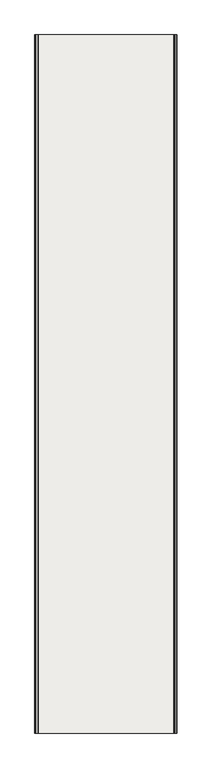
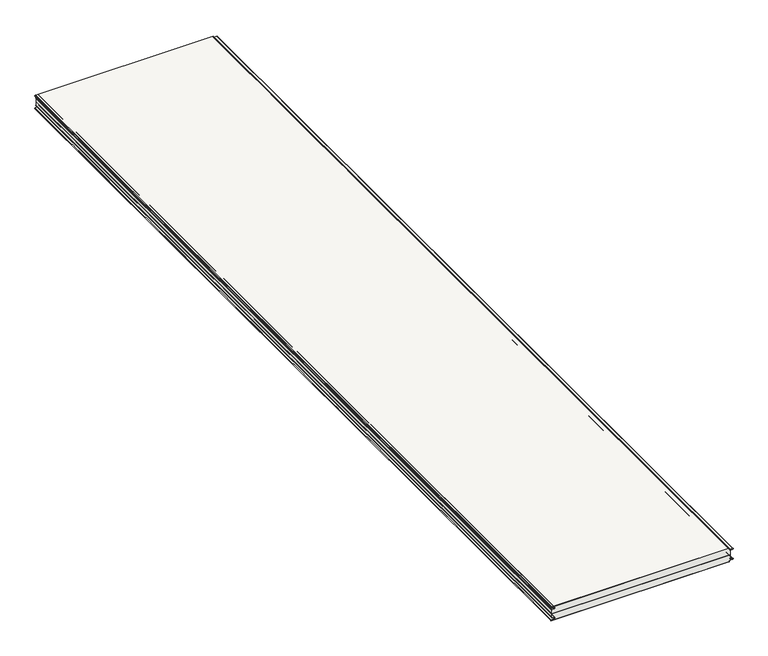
"""IFC4 building model written with IfcOpenShell, lengths in millimetres: covering geometry, Płyta warstwowa ścienna SPW-S CORE WOOL (pojedynczy arkusz) : -."""

from ifc_helpers import new_model, si_unit, point, frame, frame_2d, origin, place, context, project, spatial, polyline, circle_curve, trimmed, segment, composite_curve, outline, extrude, source, transform, mapped, element, save
from ifc_brep_helpers import plane_surface, cylinder_surface, revolved_surface, advanced_brep


def covering_82a8a973(model_context):
    return source(origin(), model_context, "Body", "SolidModel", [
        advanced_brep(
        [(-1033.5, -5000.0, -16.6075105), (-1033.5, 0.0, -16.6075105), (-1033.5, 0.0, -40.0), (-1033.5, -5000.0, -40.0), (-1032.0785013, -5000.0, -15.109566), (-1032.0785013, 0.0, -15.109566), (-1021.2683586, -5000.0, -14.5430494), (-1021.2683586, 0.0, -14.5430494), (-1021.346807, -5000.0, -5.5519576), (-1021.346807, 0.0, -5.5519576), (-1037.1871545, -5000.0, -4.9987728), (-1037.1871545, 0.0, -4.9987728), (-1037.1173522, -5000.0, -1.0), (-1037.1173522, 0.0, -1.0), (-1035.0, -5000.0, -1.0), (-36.5, -5000.0, -40.0), (-36.5, -5000.0, -16.0462304), (-33.6570079, -5000.0, -13.0503418), (-22.43132, -5000.0, -12.4620284), (-22.5993141, -5000.0, -7.6513085), (-39.1884611, -5000.0, -7.0687817), (-41.1186621, -5000.0, -5.07), (-41.1186621, -5000.0, -3.0), (-43.1186621, -5000.0, -1.0), (-1035.0, 0.0, -1.0), (-43.1186621, 0.0, -1.0), (-41.1186621, 0.0, -3.0), (-41.1186621, 0.0, -5.07), (-39.1884611, 0.0, -7.0687817), (-22.5992017, 0.0, -7.6480914), (-22.43132, 0.0, -12.4620284), (-33.6570079, 0.0, -13.0503418), (-36.5, 0.0, -16.0462304), (-36.5, 0.0, -40.0)],
        [
            (0, 1),
            (1, 2),
            (2, 3),
            (3, 0),
            (0, 4, circle_curve(frame((-1032.0, -5000.0, -16.6075105), z_axis=(0.0, 1.0, 0.0), x_axis=(-1.0, 0.0, 0.0)), 1.5)),
            (4, 5),
            (5, 1, circle_curve(frame((-1032.0, 0.0, -16.6075105), z_axis=(0.0, -1.0, 0.0), x_axis=(-1.0, 0.0, 0.0)), 1.5)),
            (4, 6),
            (6, 7),
            (7, 5),
            (6, 8, circle_curve(frame((-1021.5038626, -5000.0, -10.049216), z_axis=(0.0, -1.0, 0.0), x_axis=(-1.0, 0.0, 0.0)), 4.5)),
            (8, 9),
            (9, 7, circle_curve(frame((-1021.5038626, 0.0, -10.049216), z_axis=(0.0, 1.0, 0.0), x_axis=(-1.0, 0.0, 0.0)), 4.5)),
            (8, 10),
            (10, 11),
            (11, 9),
            (10, 12, circle_curve(frame((-1037.1173522, -5000.0, -2.9999956), z_axis=(0.0, 1.0, 0.0), x_axis=(-1.0, 0.0, 0.0)), 1.9999956)),
            (12, 13),
            (13, 11, circle_curve(frame((-1037.1173522, 0.0, -2.9999956), z_axis=(0.0, -1.0, 0.0), x_axis=(-1.0, 0.0, 0.0)), 1.9999956)),
            (14, 12),
            (3, 15),
            (15, 16),
            (16, 17, circle_curve(frame((-33.5, -5000.0, -16.0462304), z_axis=(0.0, 1.0, 0.0), x_axis=(-1.0, 0.0, 0.0)), 3.0)),
            (17, 18),
            (18, 19, circle_curve(frame((-22.6835162, -5000.0, -10.0625421), z_axis=(0.0, -1.0, 0.0), x_axis=(-1.0, 0.0, 0.0)), 2.4127033)),
            (19, 20),
            (20, 21, circle_curve(frame((-39.1186621, -5000.0, -5.07), z_axis=(0.0, 1.0, 0.0), x_axis=(-1.0, 0.0, 0.0)), 2.0)),
            (21, 22),
            (22, 23, circle_curve(frame((-43.1186621, -5000.0, -3.0), z_axis=(0.0, -1.0, 0.0), x_axis=(-1.0, 0.0, 0.0)), 2.0)),
            (23, 14),
            (13, 24),
            (24, 25),
            (25, 26, circle_curve(frame((-43.1186621, 0.0, -3.0), z_axis=(0.0, 1.0, 0.0), x_axis=(-1.0, 0.0, 0.0)), 2.0)),
            (26, 27),
            (27, 28, circle_curve(frame((-39.1186621, 0.0, -5.07), z_axis=(0.0, -1.0, 0.0), x_axis=(-1.0, 0.0, 0.0)), 2.0)),
            (28, 29),
            (29, 30, circle_curve(frame((-22.6835162, 0.0, -10.0625421), z_axis=(0.0, 1.0, 0.0), x_axis=(-1.0, 0.0, 0.0)), 2.4127033)),
            (30, 31),
            (31, 32, circle_curve(frame((-33.5, 0.0, -16.0462304), z_axis=(0.0, -1.0, 0.0), x_axis=(-1.0, 0.0, 0.0)), 3.0)),
            (32, 33),
            (33, 2),
            (23, 25),
            (33, 15),
            (22, 26),
            (21, 27),
            (20, 28),
            (19, 29),
            (18, 30),
            (17, 31),
            (16, 32),
        ],
        [
            plane_surface(frame((-1033.5, -5000.0, -63.3924895), z_axis=(-1.0, 0.0, 0.0), x_axis=(0.0, 1.0, 0.0))),
            cylinder_surface(frame((-1032.0, -5000.0, -16.6075105), z_axis=(0.0, 1.0, 0.0), x_axis=(-1.0, 0.0, 0.0)), 1.5),
            plane_surface(frame((-1032.0785013, -5000.0, -15.109566), z_axis=(-0.052334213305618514, 0.0, 0.9986296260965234), x_axis=(0.0, 1.0, 0.0))),
            revolved_surface(polyline([(-1026.0038626, -5000.0, -10.049216), (-1026.0038626, 0.0, -10.049216)]), (-1021.5038626, -5000.0, -10.049216), (0.0, -1.0, 0.0)),
            plane_surface(frame((-1021.346807, -5000.0, -5.5519576), z_axis=(-0.03490124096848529, 0.0, -0.9993907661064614), x_axis=(0.0, 1.0, 0.0))),
            cylinder_surface(frame((-1037.1173522, -5000.0, -2.9999956), z_axis=(0.0, 1.0, 0.0), x_axis=(-1.0, 0.0, 0.0)), 1.9999956),
            plane_surface(frame((-1065.0, -5000.0, -1.0), z_axis=(0.0, -1.0, 0.0), x_axis=(-1.0, 0.0, 0.0))),
            plane_surface(frame((-1065.0, 0.0, -1.0), z_axis=(0.0, 1.0, 0.0), x_axis=(1.0, 0.0, 0.0))),
            plane_surface(frame((15.0, -5000.0, -1.0), z_axis=(0.0, 0.0, 1.0), x_axis=(0.0, 1.0, 0.0))),
            plane_surface(frame((-1065.0, -5000.0, -40.0), z_axis=(0.0, 0.0, -1.0), x_axis=(0.0, 1.0, 0.0))),
            cylinder_surface(frame((-43.1186621, -5000.0, -3.0), z_axis=(0.0, 1.0, 0.0), x_axis=(-1.0, 0.0, 0.0)), 2.0),
            plane_surface(frame((-41.1186621, -5000.0, -3.0), z_axis=(1.0, 0.0, 0.0), x_axis=(0.0, 1.0, 0.0))),
            revolved_surface(polyline([(-41.1186621, -5000.0, -5.07), (-41.1186621, 0.0, -5.07)]), (-39.1186621, -5000.0, -5.07), (0.0, -1.0, 0.0)),
            plane_surface(frame((-39.1884611, -5000.0, -7.0687817), z_axis=(0.0348994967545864, 0.0, 0.9993908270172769), x_axis=(0.0, 1.0, 0.0))),
            cylinder_surface(frame((-22.6835162, -5000.0, -10.0625421), z_axis=(0.0, 1.0, 0.0), x_axis=(-1.0, 0.0, 0.0)), 2.4127033),
            plane_surface(frame((-22.43132, -5000.0, -12.4620284), z_axis=(0.052335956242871, 0.0, -0.9986295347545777), x_axis=(0.0, 1.0, 0.0))),
            revolved_surface(polyline([(-36.5, -5000.0, -16.0462304), (-36.5, 0.0, -16.0462304)]), (-33.5, -5000.0, -16.0462304), (0.0, -1.0, 0.0)),
            plane_surface(frame((-36.5, -5000.0, -16.0462304), z_axis=(1.0, 0.0, 0.0), x_axis=(0.0, 1.0, 0.0))),
        ],
        [
            (0, [[1, 2, 3, 4]]),
            (1, [[-1, 5, 6, 7]]),
            (2, [[-6, 8, 9, 10]]),
            (3, [[-9, 11, 12, 13]]),
            (4, [[-12, 14, 15, 16]]),
            (5, [[-15, 17, 18, 19]]),
            (6, [[20, -17, -14, -11, -8, -5, -4, 21, 22, 23, 24, 25, 26, 27, 28, 29, 30]]),
            (7, [[31, 32, 33, 34, 35, 36, 37, 38, 39, 40, 41, -2, -7, -10, -13, -16, -19]]),
            (8, [[-20, -30, 42, -32, -31, -18]]),
            (9, [[-3, -41, 43, -21]]),
            (10, [[44, -33, -42, -29]]),
            (11, [[-44, -28, 45, -34]]),
            (12, [[-45, -27, 46, -35]]),
            (13, [[-46, -26, 47, -36]]),
            (14, [[-47, -25, 48, -37]]),
            (15, [[-48, -24, 49, -38]]),
            (16, [[-49, -23, 50, -39]]),
            (17, [[-50, -22, -43, -40]]),
        ],
    ),
        advanced_brep(
        [(-1037.1173522, -5000.0, -79.0), (-1035.0, -5000.0, -79.0), (-44.6192414, -5000.0, -79.0), (-43.1186621, -5000.0, -79.0), (-41.1186621, -5000.0, -77.0), (-41.1186621, -5000.0, -74.93), (-39.1884611, -5000.0, -72.9312183), (-22.5992017, -5000.0, -72.3519086), (-22.1786572, -5000.0, -67.5781667), (-33.6570079, -5000.0, -66.9496582), (-36.5, -5000.0, -63.9537696), (-36.5, -5000.0, -40.0), (-1033.5, -5000.0, -40.0), (-1033.5, -5000.0, -63.3924895), (-1032.0785013, -5000.0, -64.890434), (-1021.2683586, -5000.0, -65.4569506), (-1021.346807, -5000.0, -74.4480424), (-1037.1871545, -5000.0, -75.0012272), (-1035.0, 0.0, -79.0), (-1037.1173522, 0.0, -79.0), (-1037.1871545, 0.0, -75.0012272), (-1021.346807, 0.0, -74.4480424), (-1021.2683586, 0.0, -65.4569506), (-1032.0785013, 0.0, -64.890434), (-1033.5, 0.0, -63.3924895), (-1033.5, 0.0, -40.0), (-36.5, 0.0, -40.0), (-36.5, 0.0, -63.9537696), (-33.6570079, 0.0, -66.9496582), (-22.1786572, 0.0, -67.5781667), (-22.5993141, 0.0, -72.3486915), (-39.1884611, 0.0, -72.9312183), (-41.1186621, 0.0, -74.93), (-41.1186621, 0.0, -77.0), (-43.1186621, 0.0, -79.0), (-44.6192414, 0.0, -79.0)],
        [
            (0, 1),
            (1, 2),
            (2, 3),
            (3, 4, circle_curve(frame((-43.1186621, -5000.0, -77.0), z_axis=(0.0, -1.0, 0.0), x_axis=(-1.0, 0.0, 0.0)), 2.0)),
            (4, 5),
            (5, 6, circle_curve(frame((-39.1186621, -5000.0, -74.93), z_axis=(0.0, 1.0, 0.0), x_axis=(-1.0, 0.0, 0.0)), 2.0)),
            (6, 7),
            (7, 8, circle_curve(frame((-22.6835162, -5000.0, -69.9374579), z_axis=(0.0, -1.0, 0.0), x_axis=(-1.0, 0.0, 0.0)), 2.4127033)),
            (8, 9),
            (9, 10, circle_curve(frame((-33.5, -5000.0, -63.9537696), z_axis=(0.0, 1.0, 0.0), x_axis=(-1.0, 0.0, 0.0)), 3.0)),
            (10, 11),
            (11, 12),
            (12, 13),
            (13, 14, circle_curve(frame((-1032.0, -5000.0, -63.3924895), z_axis=(0.0, -1.0, 0.0), x_axis=(-1.0, 0.0, 0.0)), 1.5)),
            (14, 15),
            (15, 16, circle_curve(frame((-1021.5038626, -5000.0, -69.950784), z_axis=(0.0, 1.0, 0.0), x_axis=(-1.0, 0.0, 0.0)), 4.5)),
            (16, 17),
            (17, 0, circle_curve(frame((-1037.1173522, -5000.0, -77.0000044), z_axis=(0.0, -1.0, 0.0), x_axis=(-1.0, 0.0, 0.0)), 1.9999956)),
            (18, 19),
            (19, 20, circle_curve(frame((-1037.1173522, 0.0, -77.0000044), z_axis=(0.0, 1.0, 0.0), x_axis=(-1.0, 0.0, 0.0)), 1.9999956)),
            (20, 21),
            (21, 22, circle_curve(frame((-1021.5038626, 0.0, -69.950784), z_axis=(0.0, -1.0, 0.0), x_axis=(-1.0, 0.0, 0.0)), 4.5)),
            (22, 23),
            (23, 24, circle_curve(frame((-1032.0, 0.0, -63.3924895), z_axis=(0.0, 1.0, 0.0), x_axis=(-1.0, 0.0, 0.0)), 1.5)),
            (24, 25),
            (25, 26),
            (26, 27),
            (27, 28, circle_curve(frame((-33.5, 0.0, -63.9537696), z_axis=(0.0, -1.0, 0.0), x_axis=(-1.0, 0.0, 0.0)), 3.0)),
            (28, 29),
            (29, 30, circle_curve(frame((-22.6835162, 0.0, -69.9374579), z_axis=(0.0, 1.0, 0.0), x_axis=(-1.0, 0.0, 0.0)), 2.4127033)),
            (30, 31),
            (31, 32, circle_curve(frame((-39.1186621, 0.0, -74.93), z_axis=(0.0, -1.0, 0.0), x_axis=(-1.0, 0.0, 0.0)), 2.0)),
            (32, 33),
            (33, 34, circle_curve(frame((-43.1186621, 0.0, -77.0), z_axis=(0.0, 1.0, 0.0), x_axis=(-1.0, 0.0, 0.0)), 2.0)),
            (34, 35),
            (35, 18),
            (25, 12),
            (11, 26),
            (0, 19),
            (34, 3),
            (17, 20),
            (16, 21),
            (15, 22),
            (14, 23),
            (13, 24),
            (10, 27),
            (9, 28),
            (8, 29),
            (7, 30),
            (6, 31),
            (5, 32),
            (4, 33),
        ],
        [
            plane_surface(frame((-1065.0, -5000.0, -40.0), z_axis=(0.0, -1.0, 0.0), x_axis=(-1.0, 0.0, 0.0))),
            plane_surface(frame((-1065.0, 0.0, -40.0), z_axis=(0.0, 1.0, 0.0), x_axis=(1.0, 0.0, 0.0))),
            plane_surface(frame((15.0, -5000.0, -40.0), z_axis=(0.0, 0.0, 1.0), x_axis=(0.0, 1.0, 0.0))),
            plane_surface(frame((-1065.0, -5000.0, -79.0), z_axis=(0.0, 0.0, -1.0), x_axis=(0.0, 1.0, 0.0))),
            cylinder_surface(frame((-1037.1173522, -5000.0, -77.0000044), z_axis=(0.0, 1.0, 0.0), x_axis=(-1.0, 0.0, 0.0)), 1.9999956),
            plane_surface(frame((-1037.1871545, -5000.0, -75.0012272), z_axis=(-0.03490124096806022, 0.0, 0.9993907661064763), x_axis=(0.0, 1.0, 0.0))),
            revolved_surface(polyline([(-1026.0038626, -5000.0, -69.950784), (-1026.0038626, 0.0, -69.950784)]), (-1021.5038626, -5000.0, -69.950784), (0.0, -1.0, 0.0)),
            plane_surface(frame((-1021.2683586, -5000.0, -65.4569506), z_axis=(-0.052334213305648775, 0.0, -0.9986296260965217), x_axis=(0.0, 1.0, 0.0))),
            cylinder_surface(frame((-1032.0, -5000.0, -63.3924895), z_axis=(0.0, 1.0, 0.0), x_axis=(-1.0, 0.0, 0.0)), 1.5),
            plane_surface(frame((-1033.5, -5000.0, -63.3924895), z_axis=(-1.0, 0.0, 0.0), x_axis=(0.0, 1.0, 0.0))),
            plane_surface(frame((-36.5, -5000.0, -16.0462304), z_axis=(1.0, 0.0, 0.0), x_axis=(0.0, 1.0, 0.0))),
            revolved_surface(polyline([(-36.5, -5000.0, -63.9537696), (-36.5, 0.0, -63.9537696)]), (-33.5, -5000.0, -63.9537696), (0.0, -1.0, 0.0)),
            plane_surface(frame((-33.6570079, -5000.0, -66.9496582), z_axis=(0.05467409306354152, 0.0, 0.9985042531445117), x_axis=(0.0, 1.0, 0.0))),
            cylinder_surface(frame((-22.6835162, -5000.0, -69.9374579), z_axis=(0.0, 1.0, 0.0), x_axis=(-1.0, 0.0, 0.0)), 2.4127033),
            plane_surface(frame((-22.5992017, -5000.0, -72.3519086), z_axis=(0.03489949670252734, 0.0, -0.9993908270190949), x_axis=(0.0, 1.0, 0.0))),
            revolved_surface(polyline([(-41.1186621, -5000.0, -74.93), (-41.1186621, 0.0, -74.93)]), (-39.1186621, -5000.0, -74.93), (0.0, -1.0, 0.0)),
            plane_surface(frame((-41.1186621, -5000.0, -74.93), z_axis=(1.0, 0.0, 0.0), x_axis=(0.0, 1.0, 0.0))),
            cylinder_surface(frame((-43.1186621, -5000.0, -77.0), z_axis=(0.0, 1.0, 0.0), x_axis=(-1.0, 0.0, 0.0)), 2.0),
        ],
        [
            (0, [[1, 2, 3, 4, 5, 6, 7, 8, 9, 10, 11, 12, 13, 14, 15, 16, 17, 18]]),
            (1, [[19, 20, 21, 22, 23, 24, 25, 26, 27, 28, 29, 30, 31, 32, 33, 34, 35, 36]]),
            (2, [[37, -12, 38, -26]]),
            (3, [[-1, 39, -19, -36, -35, 40, -3, -2]]),
            (4, [[41, -20, -39, -18]]),
            (5, [[-41, -17, 42, -21]]),
            (6, [[-42, -16, 43, -22]]),
            (7, [[-43, -15, 44, -23]]),
            (8, [[-44, -14, 45, -24]]),
            (9, [[-45, -13, -37, -25]]),
            (10, [[46, -27, -38, -11]]),
            (11, [[-46, -10, 47, -28]]),
            (12, [[-47, -9, 48, -29]]),
            (13, [[-48, -8, 49, -30]]),
            (14, [[-49, -7, 50, -31]]),
            (15, [[-50, -6, 51, -32]]),
            (16, [[-51, -5, 52, -33]]),
            (17, [[-52, -4, -40, -34]]),
        ],
    ),
        advanced_brep(
        [(-39.1884611, 0.0, -72.9312183), (-41.1186621, 0.0, -74.93), (-41.1186621, -5000.0, -74.93), (-39.1884611, -5000.0, -72.9312183), (-41.1186621, 0.0, -77.0), (-41.1186621, -5000.0, -77.0), (-43.1186621, 0.0, -79.0), (-43.1186621, -5000.0, -79.0), (-22.5992017, 0.0, -72.3519086), (-22.5992017, -5000.0, -72.3519086), (-33.6570079, 0.0, -66.9496582), (-22.43132, 0.0, -67.5379716), (-22.43132, -5000.0, -67.5379716), (-33.6570079, -5000.0, -66.9496582), (-35.5, 0.0, -61.4537696), (-36.5, 0.0, -61.4537696), (-36.5, -5000.0, -61.4537696), (-35.5, -5000.0, -61.4537696), (-36.5, 0.0, -63.9537696), (-36.5, -5000.0, -63.9537696), (-40.1186621, 0.0, -74.93), (-39.1535616, 0.0, -73.9306092), (-39.1535616, -5000.0, -73.9306092), (-40.1186621, -5000.0, -74.93), (-35.5, 0.0, -63.9537696), (-35.5, -5000.0, -63.9537696), (-33.6046719, 0.0, -65.9510287), (-33.6046719, -5000.0, -65.9510287), (-22.6071775, 0.0, -66.5273829), (-22.6071775, -5000.0, -66.5273829), (-22.7218558, 0.0, -73.3568014), (-22.7218558, -5000.0, -73.3568014), (-40.1186621, 0.0, -77.0), (-40.1186621, -5000.0, -77.0), (-43.1186621, 0.0, -80.0), (-43.1186621, -5000.0, -80.0), (-1037.1173522, -5000.0, -79.0), (-1037.1871545, -5000.0, -75.0012272), (-1021.346807, -5000.0, -74.4480424), (-1021.2683586, -5000.0, -65.4569506), (-1032.0785013, -5000.0, -64.890434), (-1033.5, -5000.0, -63.3924895), (-1033.5, -5000.0, -60.8924895), (-1034.5, -5000.0, -60.8924895), (-1034.5, -5000.0, -63.3924895), (-1032.1308355, -5000.0, -65.8890636), (-1021.3206928, -5000.0, -66.4555803), (-1021.3817082, -5000.0, -73.4486516), (-1037.2220557, -5000.0, -74.0018364), (-1037.1173522, -5000.0, -80.0), (-1037.1173522, 0.0, -80.0), (-1037.2220557, 0.0, -74.0018364), (-1021.3817082, 0.0, -73.4486516), (-1021.3206928, 0.0, -66.4555803), (-1032.1308355, 0.0, -65.8890636), (-1034.5, 0.0, -63.3924895), (-1034.5, 0.0, -60.8924895), (-1033.5, 0.0, -60.8924895), (-1033.5, 0.0, -63.3924895), (-1032.0785013, 0.0, -64.890434), (-1021.2683586, 0.0, -65.4569506), (-1021.346807, 0.0, -74.4480424), (-1037.1871545, 0.0, -75.0012272), (-1037.1173522, 0.0, -79.0)],
        [
            (0, 1, circle_curve(frame((-39.1186621, 0.0, -74.93), z_axis=(0.0, -1.0, 0.0), x_axis=(1.0, 0.0, 0.0)), 2.0)),
            (1, 2),
            (2, 3, circle_curve(frame((-39.1186621, -5000.0, -74.93), z_axis=(0.0, 1.0, 0.0), x_axis=(1.0, 0.0, 0.0)), 2.0)),
            (3, 0),
            (1, 4),
            (4, 5),
            (5, 2),
            (4, 6, circle_curve(frame((-43.1186621, 0.0, -77.0), z_axis=(0.0, 1.0, 0.0), x_axis=(1.0, 0.0, 0.0)), 2.0)),
            (6, 7),
            (7, 5, circle_curve(frame((-43.1186621, -5000.0, -77.0), z_axis=(0.0, -1.0, 0.0), x_axis=(1.0, 0.0, 0.0)), 2.0)),
            (8, 0),
            (3, 9),
            (9, 8),
            (10, 11),
            (11, 12),
            (12, 13),
            (13, 10),
            (14, 15),
            (15, 16),
            (16, 17),
            (17, 14),
            (18, 10, circle_curve(frame((-33.5, 0.0, -63.9537696), z_axis=(0.0, -1.0, 0.0), x_axis=(1.0, 0.0, 0.0)), 3.0)),
            (13, 19, circle_curve(frame((-33.5, -5000.0, -63.9537696), z_axis=(0.0, 1.0, 0.0), x_axis=(1.0, 0.0, 0.0)), 3.0)),
            (19, 18),
            (15, 18),
            (19, 16),
            (20, 21, circle_curve(frame((-39.1186621, 0.0, -74.93), z_axis=(0.0, 1.0, 0.0), x_axis=(1.0, 0.0, 0.0)), 1.0)),
            (21, 22),
            (22, 23, circle_curve(frame((-39.1186621, -5000.0, -74.93), z_axis=(0.0, -1.0, 0.0), x_axis=(1.0, 0.0, 0.0)), 1.0)),
            (23, 20),
            (24, 14),
            (17, 25),
            (25, 24),
            (26, 24, circle_curve(frame((-33.5, 0.0, -63.9537696), z_axis=(0.0, 1.0, 0.0), x_axis=(1.0, 0.0, 0.0)), 2.0)),
            (25, 27, circle_curve(frame((-33.5, -5000.0, -63.9537696), z_axis=(0.0, -1.0, 0.0), x_axis=(1.0, 0.0, 0.0)), 2.0)),
            (27, 26),
            (28, 26),
            (27, 29),
            (29, 28),
            (21, 30),
            (30, 31),
            (31, 22),
            (32, 20),
            (23, 33),
            (33, 32),
            (34, 32, circle_curve(frame((-43.1186621, 0.0, -77.0), z_axis=(0.0, -1.0, 0.0), x_axis=(1.0, 0.0, 0.0)), 3.0)),
            (33, 35, circle_curve(frame((-43.1186621, -5000.0, -77.0), z_axis=(0.0, 1.0, 0.0), x_axis=(1.0, 0.0, 0.0)), 3.0)),
            (35, 34),
            (11, 8, circle_curve(frame((-22.6835162, 0.0, -69.9374579), z_axis=(0.0, 1.0, 0.0), x_axis=(1.0, 0.0, 0.0)), 2.4127033)),
            (9, 12, circle_curve(frame((-22.6835162, -5000.0, -69.9374579), z_axis=(0.0, -1.0, 0.0), x_axis=(1.0, 0.0, 0.0)), 2.4127033)),
            (30, 28, circle_curve(frame((-22.6835162, 0.0, -69.9374579), z_axis=(0.0, -1.0, 0.0), x_axis=(1.0, 0.0, 0.0)), 3.4127033)),
            (29, 31, circle_curve(frame((-22.6835162, -5000.0, -69.9374579), z_axis=(0.0, 1.0, 0.0), x_axis=(1.0, 0.0, 0.0)), 3.4127033)),
            (36, 37, circle_curve(frame((-1037.1173522, -5000.0, -77.0000044), z_axis=(0.0, 1.0, 0.0), x_axis=(1.0, 0.0, 0.0)), 1.9999956)),
            (37, 38),
            (38, 39, circle_curve(frame((-1021.5038626, -5000.0, -69.950784), z_axis=(0.0, -1.0, 0.0), x_axis=(1.0, 0.0, 0.0)), 4.5)),
            (39, 40),
            (40, 41, circle_curve(frame((-1032.0, -5000.0, -63.3924895), z_axis=(0.0, 1.0, 0.0), x_axis=(1.0, 0.0, 0.0)), 1.5)),
            (41, 42),
            (42, 43),
            (43, 44),
            (44, 45, circle_curve(frame((-1032.0, -5000.0, -63.3924895), z_axis=(0.0, -1.0, 0.0), x_axis=(1.0, 0.0, 0.0)), 2.5)),
            (45, 46),
            (46, 47, circle_curve(frame((-1021.5038626, -5000.0, -69.950784), z_axis=(0.0, 1.0, 0.0), x_axis=(1.0, 0.0, 0.0)), 3.5)),
            (47, 48),
            (48, 49, circle_curve(frame((-1037.1173522, -5000.0, -77.0000044), z_axis=(0.0, -1.0, 0.0), x_axis=(1.0, 0.0, 0.0)), 2.9999956)),
            (49, 35),
            (7, 36),
            (34, 50),
            (50, 51, circle_curve(frame((-1037.1173522, 0.0, -77.0000044), z_axis=(0.0, 1.0, 0.0), x_axis=(1.0, 0.0, 0.0)), 2.9999956)),
            (51, 52),
            (52, 53, circle_curve(frame((-1021.5038626, 0.0, -69.950784), z_axis=(0.0, -1.0, 0.0), x_axis=(1.0, 0.0, 0.0)), 3.5)),
            (53, 54),
            (54, 55, circle_curve(frame((-1032.0, 0.0, -63.3924895), z_axis=(0.0, 1.0, 0.0), x_axis=(1.0, 0.0, 0.0)), 2.5)),
            (55, 56),
            (56, 57),
            (57, 58),
            (58, 59, circle_curve(frame((-1032.0, 0.0, -63.3924895), z_axis=(0.0, -1.0, 0.0), x_axis=(1.0, 0.0, 0.0)), 1.5)),
            (59, 60),
            (60, 61, circle_curve(frame((-1021.5038626, 0.0, -69.950784), z_axis=(0.0, 1.0, 0.0), x_axis=(1.0, 0.0, 0.0)), 4.5)),
            (61, 62),
            (62, 63, circle_curve(frame((-1037.1173522, 0.0, -77.0000044), z_axis=(0.0, -1.0, 0.0), x_axis=(1.0, 0.0, 0.0)), 1.9999956)),
            (63, 6),
            (36, 63),
            (62, 37),
            (61, 38),
            (60, 39),
            (59, 40),
            (58, 41),
            (57, 42),
            (56, 43),
            (55, 44),
            (54, 45),
            (53, 46),
            (52, 47),
            (51, 48),
            (50, 49),
        ],
        [
            cylinder_surface(frame((-39.1186621, 0.0, -74.93), z_axis=(0.0, 1.0, 0.0), x_axis=(1.0, 0.0, 0.0)), 2.0),
            plane_surface(frame((-41.1186621, 0.0, -77.0), z_axis=(-1.0, 0.0, 0.0), x_axis=(0.0, -1.0, 0.0))),
            revolved_surface(polyline([(-41.1186621, -5000.0, -77.0), (-41.1186621, 0.0, -77.0)]), (-43.1186621, 0.0, -77.0), (0.0, -1.0, 0.0)),
            plane_surface(frame((-39.1884611, 0.0, -72.9312183), z_axis=(-0.03489949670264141, 0.0, 0.9993908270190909), x_axis=(0.0, -1.0, 0.0))),
            plane_surface(frame((-22.43132, 0.0, -67.5379716), z_axis=(-0.052335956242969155, 0.0, -0.9986295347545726), x_axis=(0.0, -1.0, 0.0))),
            plane_surface(frame((-36.5, 0.0, -61.4537696), z_axis=(0.0, 0.0, 1.0), x_axis=(0.0, -1.0, 0.0))),
            cylinder_surface(frame((-33.5, 0.0, -63.9537696), z_axis=(0.0, 1.0, 0.0), x_axis=(1.0, 0.0, 0.0)), 3.0),
            plane_surface(frame((-36.5, 0.0, -63.9537696), z_axis=(-1.0, 0.0, 0.0), x_axis=(0.0, -1.0, 0.0))),
            revolved_surface(polyline([(-38.1186621, -5000.0, -74.93), (-38.1186621, 0.0, -74.93)]), (-39.1186621, 0.0, -74.93), (0.0, -1.0, 0.0)),
            plane_surface(frame((-35.5, 0.0, -61.4537696), z_axis=(1.0, 0.0, 0.0), x_axis=(0.0, -1.0, 0.0))),
            revolved_surface(polyline([(-31.5, -5000.0, -63.9537696), (-31.5, 0.0, -63.9537696)]), (-33.5, 0.0, -63.9537696), (0.0, -1.0, 0.0)),
            plane_surface(frame((-33.6046719, 0.0, -65.9510287), z_axis=(0.05233595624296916, 0.0, 0.9986295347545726), x_axis=(0.0, -1.0, 0.0))),
            plane_surface(frame((-22.7218558, 0.0, -73.3568014), z_axis=(0.0348994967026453, 0.0, -0.9993908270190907), x_axis=(0.0, -1.0, 0.0))),
            plane_surface(frame((-40.1186621, 0.0, -74.93), z_axis=(1.0, 0.0, 0.0), x_axis=(0.0, -1.0, 0.0))),
            cylinder_surface(frame((-43.1186621, 0.0, -77.0), z_axis=(0.0, 1.0, 0.0), x_axis=(1.0, 0.0, 0.0)), 3.0),
            revolved_surface(polyline([(-20.2708129, -5000.0, -69.9374579), (-20.2708129, 0.0, -69.9374579)]), (-22.6835162, 0.0, -69.9374579), (0.0, -1.0, 0.0)),
            cylinder_surface(frame((-22.6835162, 0.0, -69.9374579), z_axis=(0.0, 1.0, 0.0), x_axis=(1.0, 0.0, 0.0)), 3.4127033),
            plane_surface(frame((-1035.0, -5000.0, -80.0), z_axis=(0.0, -1.0, 0.0), x_axis=(0.0, 0.0, -1.0))),
            plane_surface(frame((-1035.0, 0.0, -80.0), z_axis=(0.0, 1.0, 0.0), x_axis=(0.0, 0.0, -1.0))),
            revolved_surface(polyline([(-1035.1173566, 0.0, -77.0000044), (-1035.1173566, -5000.0, -77.0000044)]), (-1037.1173522, -5000.0, -77.0000044), (0.0, 1.0, 0.0)),
            plane_surface(frame((-1037.1871545, -5000.0, -75.0012272), z_axis=(0.03490124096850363, 0.0, -0.9993907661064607), x_axis=(0.0, 1.0, 0.0))),
            cylinder_surface(frame((-1021.5038626, -5000.0, -69.950784), z_axis=(0.0, -1.0, 0.0), x_axis=(1.0, 0.0, 0.0)), 4.5),
            plane_surface(frame((-1021.2683586, -5000.0, -65.4569506), z_axis=(0.05233421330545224, 0.0, 0.9986296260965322), x_axis=(0.0, 1.0, 0.0))),
            revolved_surface(polyline([(-1030.5, 0.0, -63.3924895), (-1030.5, -5000.0, -63.3924895)]), (-1032.0, -5000.0, -63.3924895), (0.0, 1.0, 0.0)),
            plane_surface(frame((-1033.5, -5000.0, -63.3924895), z_axis=(1.0, 0.0, 0.0), x_axis=(0.0, 1.0, 0.0))),
            plane_surface(frame((-1033.5, -5000.0, -60.8924895), z_axis=(0.0, 0.0, 1.0), x_axis=(0.0, 1.0, 0.0))),
            plane_surface(frame((-1034.5, -5000.0, -60.8924895), z_axis=(-1.0, 0.0, 0.0), x_axis=(0.0, 1.0, 0.0))),
            cylinder_surface(frame((-1032.0, -5000.0, -63.3924895), z_axis=(0.0, -1.0, 0.0), x_axis=(1.0, 0.0, 0.0)), 2.5),
            plane_surface(frame((-1032.1308355, -5000.0, -65.8890636), z_axis=(-0.052334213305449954, 0.0, -0.9986296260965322), x_axis=(0.0, 1.0, 0.0))),
            revolved_surface(polyline([(-1018.0038626, 0.0, -69.950784), (-1018.0038626, -5000.0, -69.950784)]), (-1021.5038626, -5000.0, -69.950784), (0.0, 1.0, 0.0)),
            plane_surface(frame((-1021.3817082, -5000.0, -73.4486516), z_axis=(-0.03490124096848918, 0.0, 0.9993907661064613), x_axis=(0.0, 1.0, 0.0))),
            cylinder_surface(frame((-1037.1173522, -5000.0, -77.0000044), z_axis=(0.0, -1.0, 0.0), x_axis=(1.0, 0.0, 0.0)), 2.9999956),
            plane_surface(frame((-1037.1173522, -5000.0, -80.0), z_axis=(0.0, 0.0, -1.0), x_axis=(0.0, 1.0, 0.0))),
            plane_surface(frame((-1035.0, -5000.0, -79.0), z_axis=(0.0, 0.0, 1.0), x_axis=(0.0, 1.0, 0.0))),
        ],
        [
            (0, [[1, 2, 3, 4]]),
            (1, [[5, 6, 7, -2]]),
            (2, [[8, 9, 10, -6]]),
            (3, [[11, -4, 12, 13]]),
            (4, [[14, 15, 16, 17]]),
            (5, [[18, 19, 20, 21]]),
            (6, [[22, -17, 23, 24]]),
            (7, [[25, -24, 26, -19]]),
            (8, [[27, 28, 29, 30]]),
            (9, [[31, -21, 32, 33]]),
            (10, [[34, -33, 35, 36]]),
            (11, [[37, -36, 38, 39]]),
            (12, [[40, 41, 42, -28]]),
            (13, [[43, -30, 44, 45]]),
            (14, [[46, -45, 47, 48]]),
            (15, [[49, -13, 50, -15]]),
            (16, [[51, -39, 52, -41]]),
            (17, [[53, 54, 55, 56, 57, 58, 59, 60, 61, 62, 63, 64, 65, 66, -47, -44, -29, -42, -52, -38, -35, -32, -20, -26, -23, -16, -50, -12, -3, -7, -10, 67]]),
            (18, [[-8, -5, -1, -11, -49, -14, -22, -25, -18, -31, -34, -37, -51, -40, -27, -43, -46, 68, 69, 70, 71, 72, 73, 74, 75, 76, 77, 78, 79, 80, 81, 82]]),
            (19, [[-53, 83, -81, 84]]),
            (20, [[-54, -84, -80, 85]]),
            (21, [[-55, -85, -79, 86]]),
            (22, [[-56, -86, -78, 87]]),
            (23, [[-57, -87, -77, 88]]),
            (24, [[-58, -88, -76, 89]]),
            (25, [[-59, -89, -75, 90]]),
            (26, [[-60, -90, -74, 91]]),
            (27, [[-61, -91, -73, 92]]),
            (28, [[-62, -92, -72, 93]]),
            (29, [[-63, -93, -71, 94]]),
            (30, [[-64, -94, -70, 95]]),
            (31, [[-65, -95, -69, 96]]),
            (32, [[-66, -96, -68, -48]]),
            (33, [[-67, -9, -82, -83]]),
        ],
    ),
        extrude(outline(composite_curve([segment(polyline([(-1.0, -1037.1173522), (-1.0, -1035.0), (0.0, -1035.0), (0.0, -1037.1173522)]), True, "CONTINUOUS"), segment(trimmed(circle_curve(frame_2d((-2.9999956, -1037.1173522)), 2.9999956), [point((0.0, -1037.1173522))], [point((-5.9981636, -1037.2220557))], False, "CARTESIAN"), True, "CONTINUOUS"), segment(polyline([(-5.9981636, -1037.2220557), (-6.5513484, -1021.3817082)]), True, "CONTINUOUS"), segment(trimmed(circle_curve(frame_2d((-10.049216, -1021.5038626)), 3.5), [point((-6.5513484, -1021.3817082))], [point((-13.5444197, -1021.3206928))], True, "CARTESIAN"), True, "CONTINUOUS"), segment(polyline([(-13.5444197, -1021.3206928), (-14.1109364, -1032.1308355)]), True, "CONTINUOUS"), segment(trimmed(circle_curve(frame_2d((-16.6075105, -1032.0)), 2.5), [point((-14.1109364, -1032.1308355))], [point((-16.6075105, -1034.5))], False, "CARTESIAN"), True, "CONTINUOUS"), segment(polyline([(-16.6075105, -1034.5), (-19.1075105, -1034.5), (-19.1075105, -1033.5), (-16.6075105, -1033.5)]), True, "CONTINUOUS"), segment(trimmed(circle_curve(frame_2d((-16.6075105, -1032.0)), 1.5), [point((-16.6075105, -1033.5))], [point((-15.109566, -1032.0785013))], True, "CARTESIAN"), True, "CONTINUOUS"), segment(polyline([(-15.109566, -1032.0785013), (-14.5430494, -1021.2683586)]), True, "CONTINUOUS"), segment(trimmed(circle_curve(frame_2d((-10.049216, -1021.5038626)), 4.5), [point((-14.5430494, -1021.2683586))], [point((-5.5519576, -1021.346807))], False, "CARTESIAN"), True, "CONTINUOUS"), segment(polyline([(-5.5519576, -1021.346807), (-4.9987728, -1037.1871545)]), True, "CONTINUOUS"), segment(trimmed(circle_curve(frame_2d((-2.9999956, -1037.1173522)), 1.9999956), [point((-4.9987728, -1037.1871545))], [point((-1.0, -1037.1173522))], True, "CARTESIAN"), True, "CONTINUOUS")], self_intersect=False)), frame((0.0, -5000.0, 0.0), z_axis=(0.0, 1.0, 0.0), x_axis=(0.0, 0.0, 1.0)), (0.0, 0.0, 1.0), 5000.0),
        advanced_brep(
        [(-1035.0, 0.0, -1.0), (-1035.0, 0.0, 0.0), (-43.1186621, 0.0, 0.0), (-40.1186621, 0.0, -3.0), (-40.1186621, 0.0, -5.07), (-39.1535616, 0.0, -6.0693908), (-22.7218558, 0.0, -6.6431986), (-22.6835162, 0.0, -13.4752455), (-33.6046719, 0.0, -14.0489713), (-35.5, 0.0, -16.0462304), (-35.5, 0.0, -18.5462304), (-36.5, 0.0, -18.5462304), (-36.5, 0.0, -16.0462304), (-33.6570079, 0.0, -13.0503418), (-22.43132, 0.0, -12.4620284), (-22.5993141, 0.0, -7.6513085), (-39.1884611, 0.0, -7.0687817), (-41.1186621, 0.0, -5.07), (-41.1186621, 0.0, -3.0), (-43.1186621, 0.0, -1.0), (-1035.0, -5000.0, -1.0), (-43.1186621, -5000.0, -1.0), (-41.1186621, -5000.0, -3.0), (-41.1186621, -5000.0, -5.07), (-39.1884611, -5000.0, -7.0687817), (-22.5992017, -5000.0, -7.6480914), (-22.43132, -5000.0, -12.4620284), (-33.6570079, -5000.0, -13.0503418), (-36.5, -5000.0, -16.0462304), (-36.5, -5000.0, -18.5462304), (-35.5, -5000.0, -18.5462304), (-35.5, -5000.0, -16.0462304), (-33.6046719, -5000.0, -14.0489713), (-22.6071775, -5000.0, -13.4726171), (-22.6835162, -5000.0, -6.6498388), (-39.1535616, -5000.0, -6.0693908), (-40.1186621, -5000.0, -5.07), (-40.1186621, -5000.0, -3.0), (-43.1186621, -5000.0, 0.0), (-1035.0, -5000.0, 0.0)],
        [
            (0, 1),
            (1, 2),
            (2, 3, circle_curve(frame((-43.1186621, 0.0, -3.0), z_axis=(0.0, 1.0, 0.0), x_axis=(1.0, 0.0, 0.0)), 3.0)),
            (3, 4),
            (4, 5, circle_curve(frame((-39.1186621, 0.0, -5.07), z_axis=(0.0, -1.0, 0.0), x_axis=(1.0, 0.0, 0.0)), 1.0)),
            (5, 6),
            (6, 7, circle_curve(frame((-22.6835162, 0.0, -10.0625421), z_axis=(0.0, 1.0, 0.0), x_axis=(1.0, 0.0, 0.0)), 3.4127033)),
            (7, 8),
            (8, 9, circle_curve(frame((-33.5, 0.0, -16.0462304), z_axis=(0.0, -1.0, 0.0), x_axis=(1.0, 0.0, 0.0)), 2.0)),
            (9, 10),
            (10, 11),
            (11, 12),
            (12, 13, circle_curve(frame((-33.5, 0.0, -16.0462304), z_axis=(0.0, 1.0, 0.0), x_axis=(1.0, 0.0, 0.0)), 3.0)),
            (13, 14),
            (14, 15, circle_curve(frame((-22.6835162, 0.0, -10.0625421), z_axis=(0.0, -1.0, 0.0), x_axis=(1.0, 0.0, 0.0)), 2.4127033)),
            (15, 16),
            (16, 17, circle_curve(frame((-39.1186621, 0.0, -5.07), z_axis=(0.0, 1.0, 0.0), x_axis=(1.0, 0.0, 0.0)), 2.0)),
            (17, 18),
            (18, 19, circle_curve(frame((-43.1186621, 0.0, -3.0), z_axis=(0.0, -1.0, 0.0), x_axis=(1.0, 0.0, 0.0)), 2.0)),
            (19, 0),
            (20, 21),
            (21, 22, circle_curve(frame((-43.1186621, -5000.0, -3.0), z_axis=(0.0, 1.0, 0.0), x_axis=(1.0, 0.0, 0.0)), 2.0)),
            (22, 23),
            (23, 24, circle_curve(frame((-39.1186621, -5000.0, -5.07), z_axis=(0.0, -1.0, 0.0), x_axis=(1.0, 0.0, 0.0)), 2.0)),
            (24, 25),
            (25, 26, circle_curve(frame((-22.6835162, -5000.0, -10.0625421), z_axis=(0.0, 1.0, 0.0), x_axis=(1.0, 0.0, 0.0)), 2.4127033)),
            (26, 27),
            (27, 28, circle_curve(frame((-33.5, -5000.0, -16.0462304), z_axis=(0.0, -1.0, 0.0), x_axis=(1.0, 0.0, 0.0)), 3.0)),
            (28, 29),
            (29, 30),
            (30, 31),
            (31, 32, circle_curve(frame((-33.5, -5000.0, -16.0462304), z_axis=(0.0, 1.0, 0.0), x_axis=(1.0, 0.0, 0.0)), 2.0)),
            (32, 33),
            (33, 34, circle_curve(frame((-22.6835162, -5000.0, -10.0625421), z_axis=(0.0, -1.0, 0.0), x_axis=(1.0, 0.0, 0.0)), 3.4127033)),
            (34, 35),
            (35, 36, circle_curve(frame((-39.1186621, -5000.0, -5.07), z_axis=(0.0, 1.0, 0.0), x_axis=(1.0, 0.0, 0.0)), 1.0)),
            (36, 37),
            (37, 38, circle_curve(frame((-43.1186621, -5000.0, -3.0), z_axis=(0.0, -1.0, 0.0), x_axis=(1.0, 0.0, 0.0)), 3.0)),
            (38, 39),
            (39, 20),
            (19, 21),
            (20, 0),
            (1, 39),
            (38, 2),
            (16, 24),
            (23, 17),
            (22, 18),
            (15, 25),
            (13, 27),
            (26, 14),
            (10, 30),
            (29, 11),
            (12, 28),
            (4, 36),
            (35, 5),
            (9, 31),
            (8, 32),
            (7, 33),
            (37, 3),
            (34, 6),
        ],
        [
            plane_surface(frame((-35.0, 0.0, 0.0), z_axis=(0.0, 1.0, 0.0), x_axis=(1.0, 0.0, 0.0))),
            plane_surface(frame((-35.0, -5000.0, 0.0), z_axis=(0.0, -1.0, 0.0), x_axis=(1.0, 0.0, 0.0))),
            plane_surface(frame((-43.1186621, 0.0, -1.0), z_axis=(0.0, 0.0, -1.0), x_axis=(0.0, -1.0, 0.0))),
            plane_surface(frame((-1035.0, 0.0, 0.0), z_axis=(0.0, 0.0, 1.0), x_axis=(0.0, -1.0, 0.0))),
            cylinder_surface(frame((-39.1186621, 0.0, -5.07), z_axis=(0.0, 1.0, 0.0), x_axis=(1.0, 0.0, 0.0)), 2.0),
            plane_surface(frame((-41.1186621, 0.0, -5.07), z_axis=(-1.0, 0.0, 0.0), x_axis=(0.0, -1.0, 0.0))),
            revolved_surface(polyline([(-41.1186621, -5000.0, -3.0), (-41.1186621, 0.0, -3.0)]), (-43.1186621, 0.0, -3.0), (0.0, -1.0, 0.0)),
            plane_surface(frame((-22.5992017, 0.0, -7.6480914), z_axis=(-0.034899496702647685, 0.0, -0.9993908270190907), x_axis=(0.0, -1.0, 0.0))),
            plane_surface(frame((-33.6570079, 0.0, -13.0503418), z_axis=(-0.05233595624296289, 0.0, 0.998629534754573), x_axis=(0.0, -1.0, 0.0))),
            plane_surface(frame((-35.5, 0.0, -18.5462304), z_axis=(0.0, 0.0, -1.0), x_axis=(0.0, -1.0, 0.0))),
            cylinder_surface(frame((-33.5, 0.0, -16.0462304), z_axis=(0.0, 1.0, 0.0), x_axis=(1.0, 0.0, 0.0)), 3.0),
            plane_surface(frame((-36.5, 0.0, -18.5462304), z_axis=(-1.0, 0.0, 0.0), x_axis=(0.0, -1.0, 0.0))),
            revolved_surface(polyline([(-38.1186621, -5000.0, -5.07), (-38.1186621, 0.0, -5.07)]), (-39.1186621, 0.0, -5.07), (0.0, -1.0, 0.0)),
            plane_surface(frame((-35.5, 0.0, -16.0462304), z_axis=(1.0, 0.0, 0.0), x_axis=(0.0, -1.0, 0.0))),
            revolved_surface(polyline([(-31.5, -5000.0, -16.0462304), (-31.5, 0.0, -16.0462304)]), (-33.5, 0.0, -16.0462304), (0.0, -1.0, 0.0)),
            plane_surface(frame((-22.6071775, 0.0, -13.4726171), z_axis=(0.052335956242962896, 0.0, -0.998629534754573), x_axis=(0.0, -1.0, 0.0))),
            cylinder_surface(frame((-43.1186621, 0.0, -3.0), z_axis=(0.0, 1.0, 0.0), x_axis=(1.0, 0.0, 0.0)), 3.0),
            plane_surface(frame((-40.1186621, 0.0, -3.0), z_axis=(1.0, 0.0, 0.0), x_axis=(0.0, -1.0, 0.0))),
            plane_surface(frame((-39.1535616, 0.0, -6.0693908), z_axis=(0.03489949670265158, 0.0, 0.9993908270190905), x_axis=(0.0, -1.0, 0.0))),
            revolved_surface(polyline([(-20.2708129, -5000.0, -10.0625421), (-20.2708129, 0.0, -10.0625421)]), (-22.6835162, 0.0, -10.0625421), (0.0, -1.0, 0.0)),
            cylinder_surface(frame((-22.6835162, 0.0, -10.0625421), z_axis=(0.0, 1.0, 0.0), x_axis=(1.0, 0.0, 0.0)), 3.4127033),
            plane_surface(frame((-1035.0, 0.0, -1.0), z_axis=(-1.0, 0.0, 0.0), x_axis=(0.0, -1.0, 0.0))),
        ],
        [
            (0, [[1, 2, 3, 4, 5, 6, 7, 8, 9, 10, 11, 12, 13, 14, 15, 16, 17, 18, 19, 20]]),
            (1, [[21, 22, 23, 24, 25, 26, 27, 28, 29, 30, 31, 32, 33, 34, 35, 36, 37, 38, 39, 40]]),
            (2, [[-20, 41, -21, 42]]),
            (3, [[-2, 43, -39, 44]]),
            (4, [[-17, 45, -24, 46]]),
            (5, [[-18, -46, -23, 47]]),
            (6, [[-19, -47, -22, -41]]),
            (7, [[-16, 48, -25, -45]]),
            (8, [[-14, 49, -27, 50]]),
            (9, [[-11, 51, -30, 52]]),
            (10, [[-13, 53, -28, -49]]),
            (11, [[-12, -52, -29, -53]]),
            (12, [[-5, 54, -36, 55]]),
            (13, [[-10, 56, -31, -51]]),
            (14, [[-9, 57, -32, -56]]),
            (15, [[-8, 58, -33, -57]]),
            (16, [[-3, -44, -38, 59]]),
            (17, [[-4, -59, -37, -54]]),
            (18, [[-6, -55, -35, 60]]),
            (19, [[-15, -50, -26, -48]]),
            (20, [[-7, -60, -34, -58]]),
            (21, [[-1, -42, -40, -43]]),
        ],
    ),
    ])


if __name__ == "__main__":
    model = new_model("IFC4")
    model_context = context("Model", 3, world=origin())
    ifc_project = project(units=[si_unit("LENGTHUNIT", "METRE", prefix="MILLI")], contexts=[model_context])
    site = spatial("IfcSite", under=ifc_project)
    building = spatial("IfcBuilding", under=site)
    placement = place(None, origin())
    covering_shape = covering_82a8a973(model_context)
    element("IfcCovering", 1, ObjectType="Płyta warstwowa ścienna SPW-S CORE WOOL (pojedynczy arkusz) : -", at=placement, inside=building, context=model_context, shape_type="MappedRepresentation", body=[
        mapped(covering_shape, transform((0.0, 0.0, 0.0), x_axis=(1.0, 0.0, 0.0), y_axis=(0.0, 1.0, 0.0), z_axis=(0.0, 0.0, 1.0))),
    ])
    save(model, "model.ifc")
